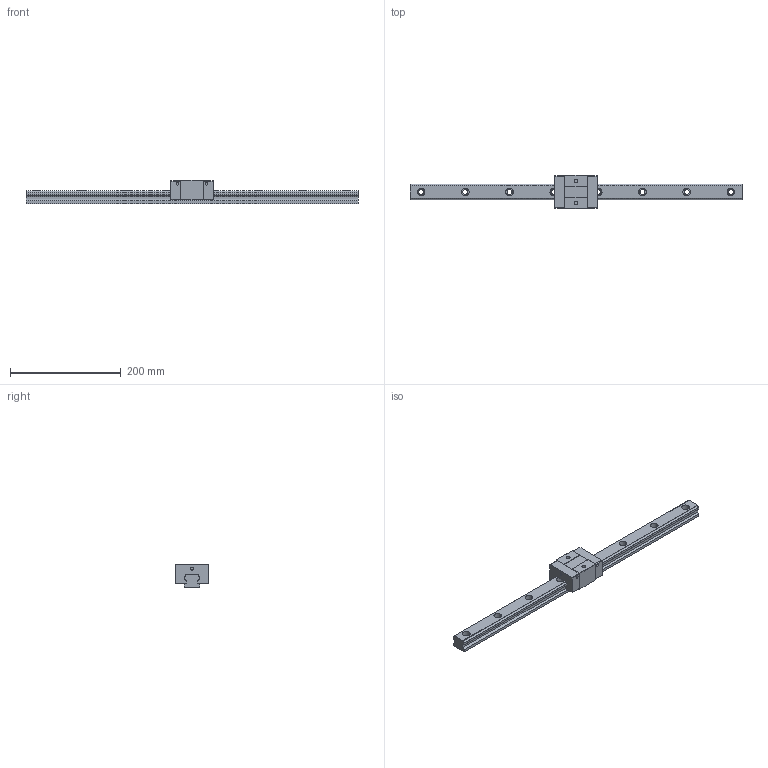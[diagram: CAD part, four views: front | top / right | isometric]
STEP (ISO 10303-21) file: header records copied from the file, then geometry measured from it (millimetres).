
FILE_DESCRIPTION (( 'STEP AP203' ), '1' );
FILE_NAME ('TRS30VS-ZN.STEP', '2024-06-13T00:40:17', ( '' ), ( '' ), 'SwSTEP 2.0', 'SolidWorks 2022', '' );
FILE_SCHEMA (( 'CONFIG_CONTROL_DESIGN' ));
Length unit declared in the file: millimetre
Products named in the file (1): TRS30VS-ZN
Bounding box: 600 x 60 x 42 mm (x, y, z)
Volume: 448261.6 mm3; surface area: 91429.9 mm2
Topology: 2 solids, 2 shells, 172 faces, 452 edges, 300 vertices
Faces by surface type: plane 88, cylinder 84
Entity records: 5459 total; most frequent: DIRECTION 966, CARTESIAN_POINT 925, ORIENTED_EDGE 904, EDGE_CURVE 452, AXIS2_PLACEMENT_3D 341, VERTEX_POINT 300, LINE 284, VECTOR 284
